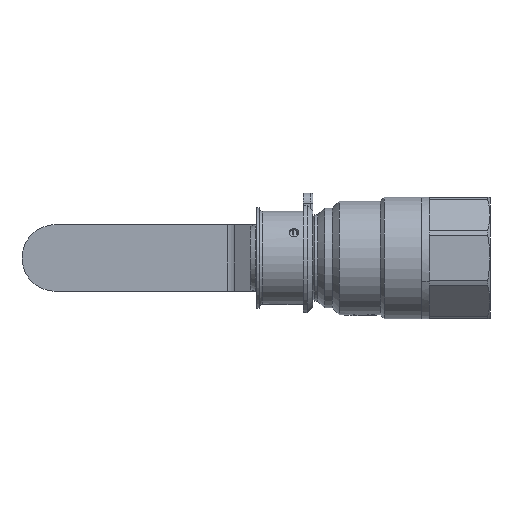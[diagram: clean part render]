
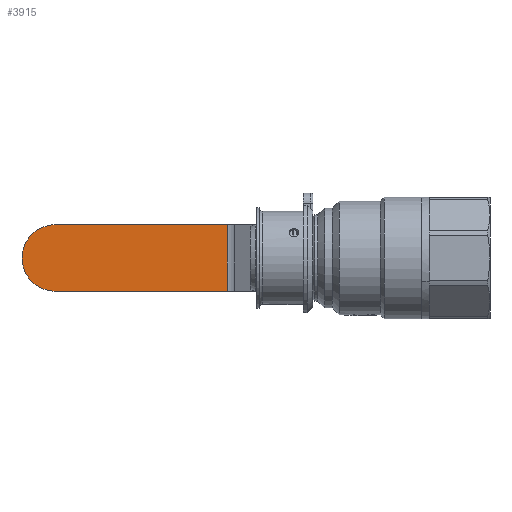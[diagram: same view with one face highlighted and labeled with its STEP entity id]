
A CAD part, front view. The second image highlights one B-rep face of the part: STEP entity #3915.
In plain terms, the highlighted planar face has unit normal (0, -1, 0) as drawn and (0, 0, -1) by its records, which use the part's own axes.
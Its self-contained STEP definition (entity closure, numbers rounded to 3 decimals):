
#748 = CARTESIAN_POINT ( 'NONE',  ( 36.668, 8.5, 14.579 ) ) ;
#825 = EDGE_CURVE ( 'NONE', #13959, #37726, #27830, .T. ) ;
#1033 = EDGE_CURVE ( 'NONE', #37726, #44759, #22736, .T. ) ;
#2904 = ORIENTED_EDGE ( 'NONE', *, *, #825, .T. ) ;
#3419 = ORIENTED_EDGE ( 'NONE', *, *, #1033, .T. ) ;
#3915 = ADVANCED_FACE ( 'NONE', ( #39948 ), #35233, .T. ) ;
#4413 = LINE ( 'NONE', #18476, #21771 ) ;
#4822 = CARTESIAN_POINT ( 'NONE',  ( 36.668, -8.5, 14.579 ) ) ;
#5526 = CARTESIAN_POINT ( 'NONE',  ( 80.604, 8.5, 14.579 ) ) ;
#8418 = DIRECTION ( 'NONE',  ( 1., 0., 0. ) ) ;
#8506 = VECTOR ( 'NONE', #8418, 1000. ) ;
#10528 = DIRECTION ( 'NONE',  ( -1., 0., 0. ) ) ;
#10560 = VERTEX_POINT ( 'NONE', #34673 ) ;
#11473 = AXIS2_PLACEMENT_3D ( 'NONE', #35397, #13830, #32082 ) ;
#11866 = LINE ( 'NONE', #4822, #8506 ) ;
#13830 = DIRECTION ( 'NONE',  ( 0., 0., -1. ) ) ;
#13838 = AXIS2_PLACEMENT_3D ( 'NONE', #28960, #36157, #29109 ) ;
#13959 = VERTEX_POINT ( 'NONE', #5526 ) ;
#15521 = ORIENTED_EDGE ( 'NONE', *, *, #42139, .F. ) ;
#15600 = ORIENTED_EDGE ( 'NONE', *, *, #35353, .F. ) ;
#17896 = CARTESIAN_POINT ( 'NONE',  ( 80.604, 0., 14.579 ) ) ;
#18021 = DIRECTION ( 'NONE',  ( 0., -1., 0. ) ) ;
#18476 = CARTESIAN_POINT ( 'NONE',  ( 36.668, 8.5, 14.579 ) ) ;
#18790 = VERTEX_POINT ( 'NONE', #43169 ) ;
#21771 = VECTOR ( 'NONE', #18021, 1000. ) ;
#22736 = CIRCLE ( 'NONE', #32971, 8.5 ) ;
#23923 = CARTESIAN_POINT ( 'NONE',  ( 89.104, 0., 14.579 ) ) ;
#25316 = DIRECTION ( 'NONE',  ( 1., 0., 0. ) ) ;
#27830 = CIRCLE ( 'NONE', #13838, 8.5 ) ;
#28960 = CARTESIAN_POINT ( 'NONE',  ( 80.604, 0., 14.579 ) ) ;
#29109 = DIRECTION ( 'NONE',  ( -1., 0., 0. ) ) ;
#29456 = CARTESIAN_POINT ( 'NONE',  ( 80.604, -8.5, 14.579 ) ) ;
#31932 = DIRECTION ( 'NONE',  ( 0., 0., -1. ) ) ;
#32082 = DIRECTION ( 'NONE',  ( -1., 0., 0. ) ) ;
#32971 = AXIS2_PLACEMENT_3D ( 'NONE', #17896, #31932, #10528 ) ;
#34673 = CARTESIAN_POINT ( 'NONE',  ( 36.668, -8.5, 14.579 ) ) ;
#35233 = PLANE ( 'NONE',  #11473 ) ;
#35353 = EDGE_CURVE ( 'NONE', #10560, #44759, #11866, .T. ) ;
#35397 = CARTESIAN_POINT ( 'NONE',  ( 36.668, 8.5, 14.579 ) ) ;
#36157 = DIRECTION ( 'NONE',  ( 0., 0., -1. ) ) ;
#37726 = VERTEX_POINT ( 'NONE', #23923 ) ;
#38180 = ORIENTED_EDGE ( 'NONE', *, *, #42682, .T. ) ;
#39948 = FACE_OUTER_BOUND ( 'NONE', #40321, .T. ) ;
#40321 = EDGE_LOOP ( 'NONE', ( #38180, #2904, #3419, #15600, #15521 ) ) ;
#41330 = LINE ( 'NONE', #748, #46313 ) ;
#42139 = EDGE_CURVE ( 'NONE', #18790, #10560, #4413, .T. ) ;
#42682 = EDGE_CURVE ( 'NONE', #18790, #13959, #41330, .T. ) ;
#43169 = CARTESIAN_POINT ( 'NONE',  ( 36.668, 8.5, 14.579 ) ) ;
#44759 = VERTEX_POINT ( 'NONE', #29456 ) ;
#46313 = VECTOR ( 'NONE', #25316, 1000. ) ;
